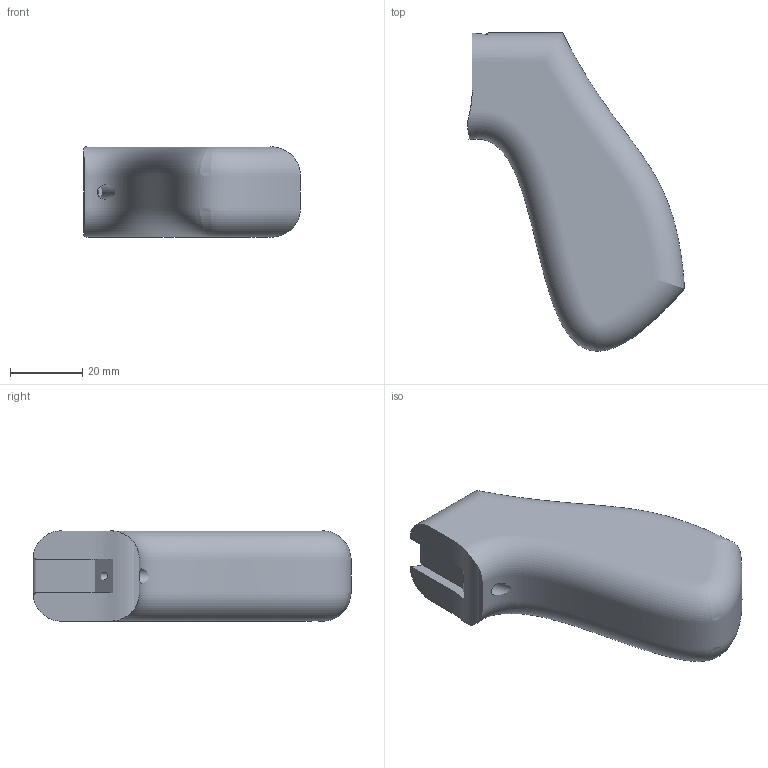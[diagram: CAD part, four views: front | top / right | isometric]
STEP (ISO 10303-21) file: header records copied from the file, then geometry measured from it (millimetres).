
FILE_DESCRIPTION(/* description */ ('STEP AP242 Edition 2','CAx-IF Rec.Pracs.---Representation and Presentation of Product Manufacturing Information (PMI)---4.0---2014-10-13','CAx-IF Rec.Pracs.---3D Tessellated Geometry---0.4---2014-09-14','2;1','CAx-IF Rec.Pracs.---User Defined Attributes---1.5---2016-08-15'),/* implementation_level */ '2;1');
FILE_NAME(/* name */ 'BambuLabA1mini_Leader_SO101 - Part 7',/* time_stamp */ '2026-11-25T15:08:23Z',/* author */ (''),/* organization */ (''),/* preprocessor_version */ 'ST-DEVELOPER v20',/* originating_system */ 'ONSHAPE BY PTC INC, 1.224',/* authorisation */ ' ');
FILE_SCHEMA (('AP242_MANAGED_MODEL_BASED_3D_ENGINEERING_MIM_LF { 1 0 10303 442 3 1 4 }'));
Length unit declared in the file: metre
Products named in the file (1): Part 7
Bounding box: 60.06 x 88.12 x 25 mm (x, y, z)
Surface area: 10830 mm2 (no closed solid volume)
Topology: 0 solids, 1 shells, 1 faces, 0 edges, 0 vertices
Faces by surface type: other 1
Entity records: 38 total; most frequent: STYLED_ITEM 2, PRESENTATION_STYLE_ASSIGNMENT 2, SURFACE_STYLE_USAGE 2, SURFACE_SIDE_STYLE 2, SURFACE_STYLE_FILL_AREA 2, FILL_AREA_STYLE 2, FILL_AREA_STYLE_COLOUR 2, DIRECTION 2
